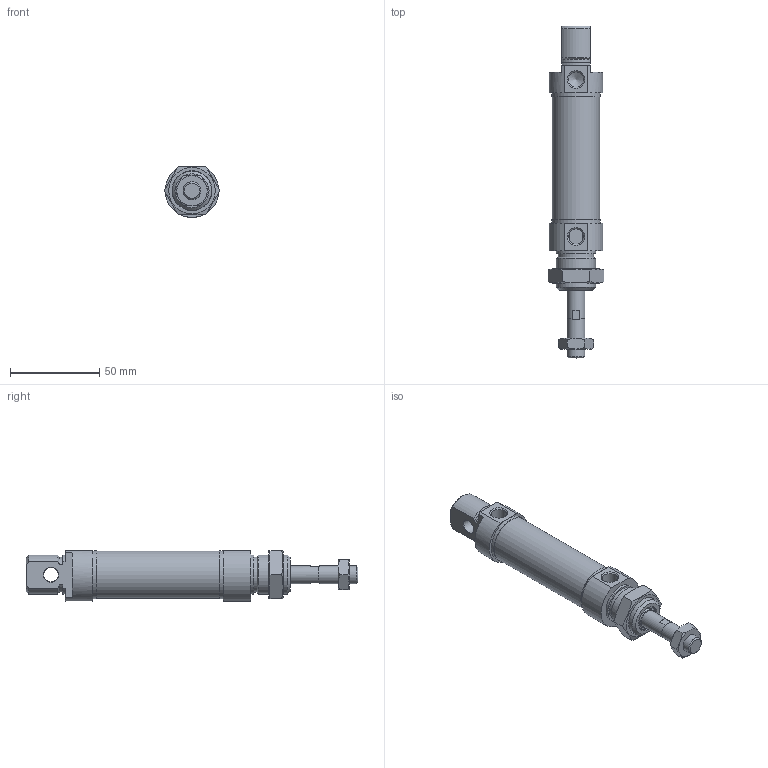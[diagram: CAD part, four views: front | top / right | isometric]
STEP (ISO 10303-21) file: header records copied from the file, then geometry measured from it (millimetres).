
FILE_DESCRIPTION(/* description */ ('Unknown'),/* implementation_level */ '2;1');
FILE_NAME(/* name */ 'REMV 25_10',/* time_stamp */ '2024-08-29T08:08:48+02:00',/* author */ ('Unknown'),/* organization */ ('Unknown'),/* preprocessor_version */ 'ST-DEVELOPER v16.7',/* originating_system */ 'Solid Edge',/* authorisation */ 'Unknown');
FILE_SCHEMA (('AUTOMOTIVE_DESIGN {1 0 10303 214 3 1 1}'));
Length unit declared in the file: millimetre
Products named in the file (7): REMV 25_10; Profilrohr; Kolbenstange; Kit_1; Kit_2; Mutter_1; Mutter_2
Assembly tree (6 placements, depth 2):
  REMV 25_10
    Profilrohr
    Kolbenstange
    Kit_1
    Kit_2
    Mutter_1
    Mutter_2
Bounding box: 31.18 x 186 x 28.45 mm (x, y, z)
Volume: 77458 mm3; surface area: 32933.2 mm2
Topology: 6 solids, 6 shells, 136 faces, 289 edges, 178 vertices
Faces by surface type: plane 55, cone 40, cylinder 34, torus 7
Full cylindrical faces by diameter (mm): 8 x1, 8.56 x1, 8.566 x2, 8.647 x1, 10 x2, 10.5 x1, 11.1 x1, 14 x1, 14.1 x1, 16.1 x1, 16.2 x1, 19.7 x1, 20.376 x1, 22 x2, 25 x2, 26.5 x1, 27 x2
Entity records: 4327 total; most frequent: CARTESIAN_POINT 639, DIRECTION 582, ORIENTED_EDGE 452, AXIS2_PLACEMENT_3D 259, EDGE_CURVE 226, FACE_BOUND 211, EDGE_LOOP 210, VERTEX_POINT 169
